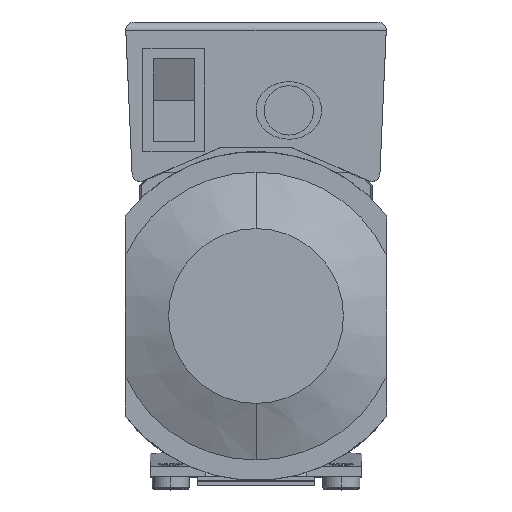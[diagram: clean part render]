
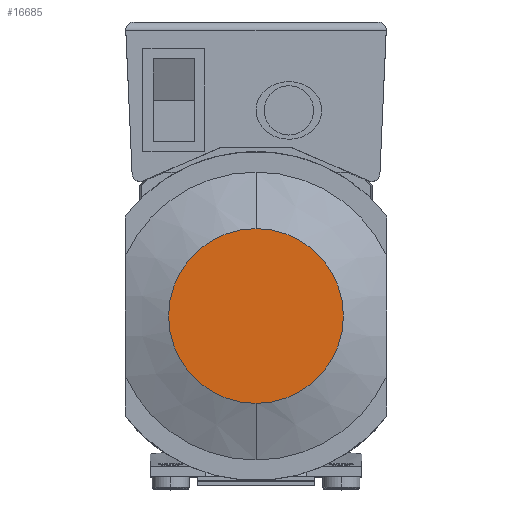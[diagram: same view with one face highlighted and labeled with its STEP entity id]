
A CAD part, top view. The second image highlights one B-rep face of the part: STEP entity #16685.
In plain terms, the highlighted planar face has unit normal (0, 0, 1) as drawn and (0, 0, -1) by its records, which use the part's own axes.
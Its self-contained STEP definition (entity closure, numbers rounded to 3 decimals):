
#15088=CARTESIAN_POINT('',(0.,0.,-202.5));
#15089=DIRECTION('',(0.,0.,-1.));
#15090=DIRECTION('',(0.,1.,0.));
#15091=AXIS2_PLACEMENT_3D('',#15088,#15089,#15090);
#15097=CARTESIAN_POINT('',(0.,0.,-202.5));
#15098=DIRECTION('',(0.,0.,1.));
#15099=DIRECTION('',(0.,1.,0.));
#15100=AXIS2_PLACEMENT_3D('',#15097,#15098,#15099);
#16386=CARTESIAN_POINT('',(0.,42.5,-202.5));
#16388=VERTEX_POINT('',#16386);
#16408=CARTESIAN_POINT('',(0.,-42.5,-202.5));
#16410=VERTEX_POINT('',#16408);
#16674=CARTESIAN_POINT('',(0.,0.,-202.5));
#16675=DIRECTION('',(0.,0.,1.));
#16676=DIRECTION('',(0.,1.,0.));
#16677=AXIS2_PLACEMENT_3D('',#16674,#16675,#16676);
#16678=PLANE('',#16677);
#16680=ORIENTED_EDGE('',*,*,#16679,.F.);
#16682=ORIENTED_EDGE('',*,*,#16681,.T.);
#16683=EDGE_LOOP('',(#16680,#16682));
#16684=FACE_OUTER_BOUND('',#16683,.F.);
#15092=CIRCLE('',#15091,42.5);
#15101=CIRCLE('',#15100,42.5);
#16679=EDGE_CURVE('',#16388,#16410,#15092,.T.);
#16681=EDGE_CURVE('',#16388,#16410,#15101,.T.);
#16685=ADVANCED_FACE('',(#16684),#16678,.F.);
